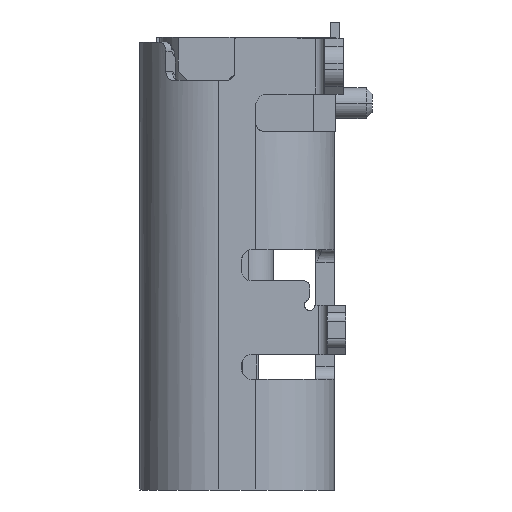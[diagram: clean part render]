
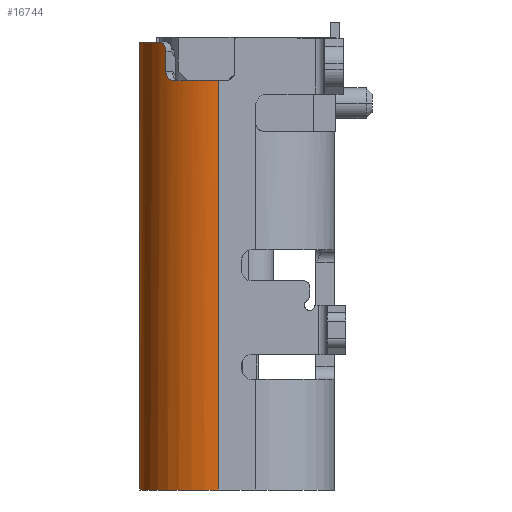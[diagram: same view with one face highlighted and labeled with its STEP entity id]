
A CAD part, left-side view. The second image highlights one B-rep face of the part: STEP entity #16744.
In plain terms, the highlighted cylindrical face has radius 1.28 mm (diameter 2.56 mm), a partial arc.
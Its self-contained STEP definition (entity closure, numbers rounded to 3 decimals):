
#1985=CARTESIAN_POINT('',(-3.19,0.295,-10.908));
#1986=DIRECTION('',(0.,0.,1.));
#1987=DIRECTION('',(0.,1.,0.));
#1988=AXIS2_PLACEMENT_3D('',#1985,#1986,#1987);
#3416=CARTESIAN_POINT('',(-3.19,0.295,-3.633));
#3417=DIRECTION('',(0.,0.,-1.));
#3418=DIRECTION('',(-0.657,0.754,0.));
#3419=AXIS2_PLACEMENT_3D('',#3416,#3417,#3418);
#3449=CARTESIAN_POINT('',(-4.143,1.15,
-3.783));
#3450=CARTESIAN_POINT('',(-4.143,1.15,
-3.77));
#3451=CARTESIAN_POINT('',(-4.14,1.152,
-3.744));
#3452=CARTESIAN_POINT('',(-4.13,1.164,
-3.707));
#3453=CARTESIAN_POINT('',(-4.113,1.182,
-3.675));
#3454=CARTESIAN_POINT('',(-4.089,1.206,
-3.651));
#3455=CARTESIAN_POINT('',(-4.064,1.231,
-3.637));
#3456=CARTESIAN_POINT('',(-4.042,1.25,
-3.633));
#3457=CARTESIAN_POINT('',(-4.031,1.26,
-3.633));
#3543=DIRECTION('',(0.,0.,-1.));
#3544=VECTOR('',#3543,6.65);
#3545=CARTESIAN_POINT('',(-4.47,0.295,
-4.258));
#3546=LINE('',#3545,#3544);
#3547=DIRECTION('',(0.,0.,1.));
#3548=VECTOR('',#3547,7.275);
#3549=CARTESIAN_POINT('',(-3.19,1.575,
-10.908));
#3550=LINE('',#3549,#3548);
#3551=DIRECTION('',(0.,0.,-1.));
#3552=VECTOR('',#3551,0.325);
#3553=CARTESIAN_POINT('',(-4.143,1.15,
-3.783));
#3554=LINE('',#3553,#3552);
#3555=CARTESIAN_POINT('',(-4.143,1.15,
-4.108));
#3556=CARTESIAN_POINT('',(-4.143,1.15,
-4.123));
#3557=CARTESIAN_POINT('',(-4.146,1.147,
-4.153));
#3558=CARTESIAN_POINT('',(-4.16,1.13,
-4.197));
#3559=CARTESIAN_POINT('',(-4.182,1.104,
-4.23));
#3560=CARTESIAN_POINT('',(-4.209,1.07,
-4.253));
#3561=CARTESIAN_POINT('',(-4.228,1.044,
-4.258));
#3562=CARTESIAN_POINT('',(-4.237,1.031,
-4.258));
#3564=CARTESIAN_POINT('',(-3.19,0.295,-4.258));
#3565=DIRECTION('',(0.,0.,-1.));
#3566=DIRECTION('',(-0.98,0.197,0.));
#3567=AXIS2_PLACEMENT_3D('',#3564,#3565,#3566);
#3585=CARTESIAN_POINT('',(-3.19,0.295,-4.258));
#3586=DIRECTION('',(0.,0.,-1.));
#3587=DIRECTION('',(-0.921,0.391,0.));
#3588=AXIS2_PLACEMENT_3D('',#3585,#3586,#3587);
#8698=CARTESIAN_POINT('',(-3.19,0.295,-4.258));
#8699=DIRECTION('',(0.,0.,-1.));
#8700=DIRECTION('',(-1.,0.,0.));
#8701=AXIS2_PLACEMENT_3D('',#8698,#8699,#8700);
#9255=CARTESIAN_POINT('',(-4.47,0.295,-10.908));
#9256=VERTEX_POINT('',#9255);
#9257=CARTESIAN_POINT('',(-4.47,0.295,
-4.258));
#9258=VERTEX_POINT('',#9257);
#9531=CARTESIAN_POINT('',(-4.143,1.15,
-4.108));
#9532=VERTEX_POINT('',#9531);
#9533=CARTESIAN_POINT('',(-4.143,1.15,
-3.783));
#9534=VERTEX_POINT('',#9533);
#9537=VERTEX_POINT('',#3562);
#9539=CARTESIAN_POINT('',(-4.445,0.547,
-4.258));
#9540=CARTESIAN_POINT('',(-4.368,0.795,
-4.258));
#9541=VERTEX_POINT('',#9539);
#9542=VERTEX_POINT('',#9540);
#9543=CARTESIAN_POINT('',(-3.19,1.575,
-10.908));
#9544=VERTEX_POINT('',#9543);
#9545=CARTESIAN_POINT('',(-3.19,1.575,
-3.633));
#9546=VERTEX_POINT('',#9545);
#9547=CARTESIAN_POINT('',(-4.031,1.26,
-3.633));
#9548=VERTEX_POINT('',#9547);
#16722=CARTESIAN_POINT('',(-3.19,0.295,-3.487));
#16723=DIRECTION('',(0.,0.,-1.));
#16724=DIRECTION('',(-0.999,-0.051,0.));
#16725=AXIS2_PLACEMENT_3D('',#16722,#16723,#16724);
#16726=CYLINDRICAL_SURFACE('',#16725,1.28);
#16728=ORIENTED_EDGE('',*,*,#16727,.F.);
#16730=ORIENTED_EDGE('',*,*,#16729,.F.);
#16732=ORIENTED_EDGE('',*,*,#16731,.T.);
#16733=ORIENTED_EDGE('',*,*,#14661,.F.);
#16735=ORIENTED_EDGE('',*,*,#16734,.T.);
#16736=ORIENTED_EDGE('',*,*,#16548,.F.);
#16737=ORIENTED_EDGE('',*,*,#16570,.F.);
#16738=ORIENTED_EDGE('',*,*,#16698,.T.);
#16739=ORIENTED_EDGE('',*,*,#16711,.T.);
#16741=ORIENTED_EDGE('',*,*,#16740,.F.);
#16742=EDGE_LOOP('',(#16728,#16730,#16732,#16733,#16735,#16736,#16737,#16738,
#16739,#16741));
#16743=FACE_OUTER_BOUND('',#16742,.F.);
#1989=CIRCLE('',#1988,1.28);
#3420=CIRCLE('',#3419,1.28);
#3458=B_SPLINE_CURVE_WITH_KNOTS('',3,(#3449,#3450,#3451,#3452,#3453,#3454,#3455,
#3456,#3457),.UNSPECIFIED.,.F.,.F.,(4,1,1,1,1,1,4),(0.,0.167,
0.333,0.5,0.667,0.833,1.),
.UNSPECIFIED.);
#3563=B_SPLINE_CURVE_WITH_KNOTS('',3,(#3555,#3556,#3557,#3558,#3559,#3560,#3561,
#3562),.UNSPECIFIED.,.F.,.F.,(4,1,1,1,1,4),(0.,0.2,0.4,0.6,0.8,1.),
.UNSPECIFIED.);
#3568=CIRCLE('',#3567,1.28);
#3589=CIRCLE('',#3588,1.28);
#8702=CIRCLE('',#8701,1.28);
#14661=EDGE_CURVE('',#9544,#9256,#1989,.T.);
#16548=EDGE_CURVE('',#9548,#9546,#3420,.T.);
#16570=EDGE_CURVE('',#9534,#9548,#3458,.T.);
#16698=EDGE_CURVE('',#9534,#9532,#3554,.T.);
#16711=EDGE_CURVE('',#9532,#9537,#3563,.T.);
#16727=EDGE_CURVE('',#9541,#9542,#3568,.T.);
#16729=EDGE_CURVE('',#9258,#9541,#8702,.T.);
#16731=EDGE_CURVE('',#9258,#9256,#3546,.T.);
#16734=EDGE_CURVE('',#9544,#9546,#3550,.T.);
#16740=EDGE_CURVE('',#9542,#9537,#3589,.T.);
#16744=ADVANCED_FACE('',(#16743),#16726,.T.);
